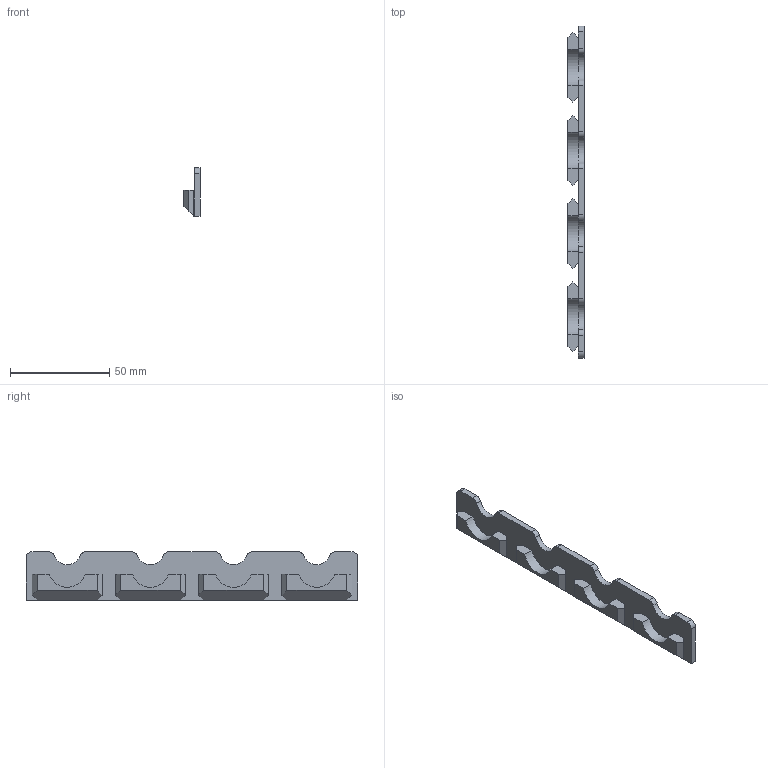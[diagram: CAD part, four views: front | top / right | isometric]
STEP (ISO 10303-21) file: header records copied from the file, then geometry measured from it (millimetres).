
FILE_DESCRIPTION(/* description */ ('','CAx-IF Rec.Pracs.---Representation and Presentation of Product Manufacturing Information (PMI)---4.0---2014-10-13'),/* implementation_level */ '2;1');
FILE_NAME(/* name */ 'Goews 4x Hanging Plate Blank.step',/* time_stamp */ '2024-11-28T09:31:18-05:00',/* author */ (''),/* organization */ (''),/* preprocessor_version */ 'ST-DEVELOPER v20',/* originating_system */ 'Autodesk Translation Framework v13.20.0.188',/* authorisation */ '');
FILE_SCHEMA (('AP242_MANAGED_MODEL_BASED_3D_ENGINEERING_MIM_LF { 1 0 10303 442 1 1 4 }'));
Length unit declared in the file: millimetre
Products named in the file (1): Goews 4x Hanging Plate Blank
Bounding box: 8.15 x 167.6 x 24.39 mm (x, y, z)
Volume: 16763.3 mm3; surface area: 10550.6 mm2
Topology: 1 solids, 1 shells, 72 faces, 190 edges, 124 vertices
Faces by surface type: plane 54, cylinder 18
Entity records: 2239 total; most frequent: CARTESIAN_POINT 387, ORIENTED_EDGE 380, DIRECTION 372, EDGE_CURVE 190, LINE 154, VECTOR 154, VERTEX_POINT 124, AXIS2_PLACEMENT_3D 109
